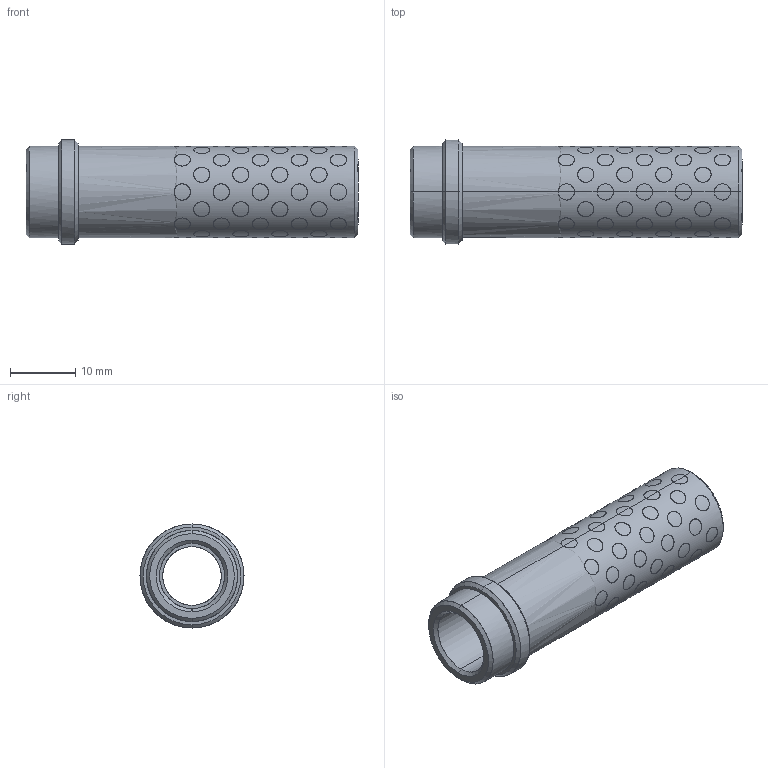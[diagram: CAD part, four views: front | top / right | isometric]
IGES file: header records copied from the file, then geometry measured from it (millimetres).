
Start section: START RECORD GO HERE.
Global section: file name: G31209046.igs; native system: DASSAULT SYSTEMES CATIA V5 R20 - www.3ds.com; preprocessor: CATIA Version 5 Release 20 ; author: r.borello; organization: CFTORINO; date: 20190624.122242; units: millimetre
Bounding box: 51 x 16 x 16 mm (x, y, z)
Surface area: 6817.7 mm2 (no closed solid volume)
Topology: 0 solids, 0 shells, 479 faces, 2076 edges, 2076 vertices
Faces by surface type: revolution 474, plane 5
